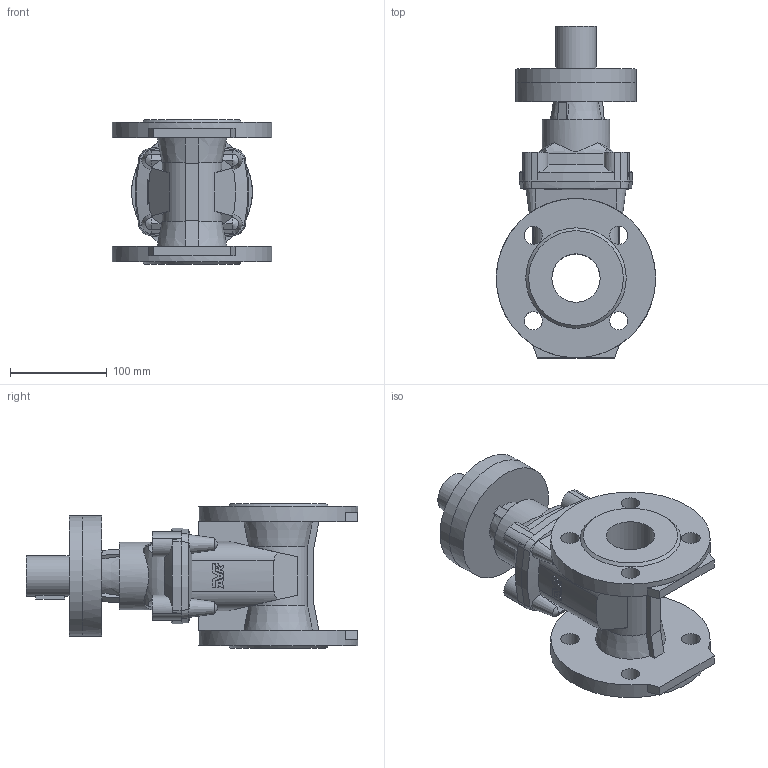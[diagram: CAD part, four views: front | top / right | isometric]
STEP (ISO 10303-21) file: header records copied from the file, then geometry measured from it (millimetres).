
FILE_DESCRIPTION (( 'STEP AP203' ), '1' );
FILE_NAME ('O_15_40_DN050_X1X_AA0.step', '2017-03-10T07:58:33', ( 'Windows User' ), ( 'AVK' ), 'SwSTEP 2.0', 'SolidWorks 2012', '' );
FILE_SCHEMA (( 'CONFIG_CONTROL_DESIGN' ));
Length unit declared in the file: millimetre
Products named in the file (1): O_15_40_DN050_X1X_AA0
Bounding box: 165 x 343.5 x 150 mm (x, y, z)
Volume: 2277977.6 mm3; surface area: 244284 mm2
Topology: 1 solids, 1 shells, 266 faces, 713 edges, 467 vertices
Faces by surface type: plane 98, cylinder 59, bspline 54, cone 51, torus 4
Full cylindrical faces by diameter (mm): 8.5 x4, 11.5 x4, 19 x8, 42 x1, 50 x1, 70 x1, 125 x2, 165 x2
Entity records: 9424 total; most frequent: CARTESIAN_POINT 3536, ORIENTED_EDGE 1342, DIRECTION 957, EDGE_CURVE 671, VERTEX_POINT 450, AXIS2_PLACEMENT_3D 387, EDGE_LOOP 327, FACE_OUTER_BOUND 289
